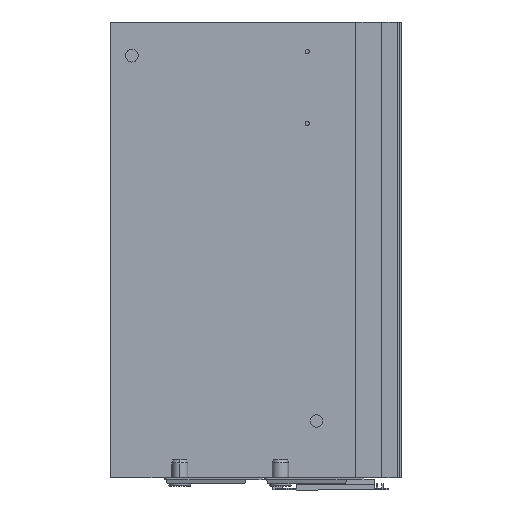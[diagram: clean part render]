
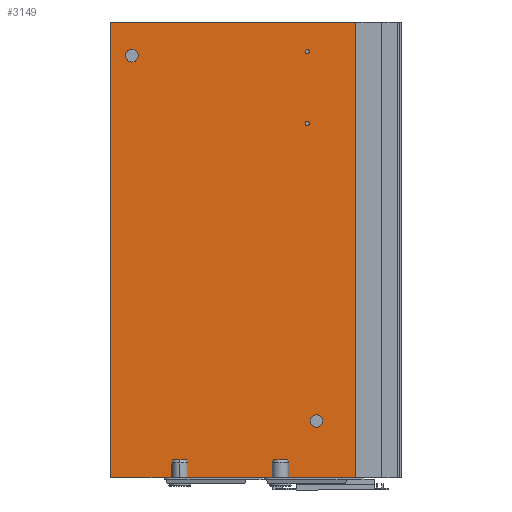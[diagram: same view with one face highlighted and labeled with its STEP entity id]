
A CAD part, left-side view. The second image highlights one B-rep face of the part: STEP entity #3149.
In plain terms, the highlighted planar face has unit normal (-1, 0, 0).
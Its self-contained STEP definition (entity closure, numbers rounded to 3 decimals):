
#44 = DIRECTION ( 'NONE',  ( 0., 0., -1. ) ) ;
#87 = AXIS2_PLACEMENT_3D ( 'NONE', #3663, #1746, #4007 ) ;
#129 = VECTOR ( 'NONE', #3074, 1000. ) ;
#180 = VERTEX_POINT ( 'NONE', #3701 ) ;
#184 = CARTESIAN_POINT ( 'NONE',  ( -10.5, 142.5, -25.5 ) ) ;
#195 = EDGE_LOOP ( 'NONE', ( #3109, #1850 ) ) ;
#211 = DIRECTION ( 'NONE',  ( 1., 0., 0. ) ) ;
#212 = CARTESIAN_POINT ( 'NONE',  ( -10.5, 58., -290. ) ) ;
#216 = FACE_BOUND ( 'NONE', #527, .T. ) ;
#233 = ORIENTED_EDGE ( 'NONE', *, *, #359, .T. ) ;
#299 = EDGE_LOOP ( 'NONE', ( #2926, #2809 ) ) ;
#308 = PLANE ( 'NONE',  #404 ) ;
#359 = EDGE_CURVE ( 'NONE', #390, #2583, #3120, .T. ) ;
#374 = EDGE_LOOP ( 'NONE', ( #3401, #233 ) ) ;
#390 = VERTEX_POINT ( 'NONE', #1865 ) ;
#404 = AXIS2_PLACEMENT_3D ( 'NONE', #4154, #629, #2865 ) ;
#416 = ORIENTED_EDGE ( 'NONE', *, *, #2328, .F. ) ;
#418 = EDGE_CURVE ( 'NONE', #3489, #2908, #1927, .T. ) ;
#432 = VERTEX_POINT ( 'NONE', #1297 ) ;
#434 = LINE ( 'NONE', #809, #1313 ) ;
#527 = EDGE_LOOP ( 'NONE', ( #3504, #2651 ) ) ;
#567 = CARTESIAN_POINT ( 'NONE',  ( -10.5, 155.9, -290. ) ) ;
#590 = ORIENTED_EDGE ( 'NONE', *, *, #899, .T. ) ;
#629 = DIRECTION ( 'NONE',  ( 1., 0., 0. ) ) ;
#677 = CIRCLE ( 'NONE', #2187, 1.339 ) ;
#730 = VERTEX_POINT ( 'NONE', #2392 ) ;
#809 = CARTESIAN_POINT ( 'NONE',  ( -10.5, 156., 0. ) ) ;
#848 = CARTESIAN_POINT ( 'NONE',  ( -10.5, 142.5, -21.5 ) ) ;
#899 = EDGE_CURVE ( 'NONE', #2231, #432, #2962, .T. ) ;
#903 = CARTESIAN_POINT ( 'NONE',  ( -10.5, 156., -290. ) ) ;
#972 = DIRECTION ( 'NONE',  ( 0., 1., 0. ) ) ;
#982 = DIRECTION ( 'NONE',  ( 1., 0., 0. ) ) ;
#1049 = AXIS2_PLACEMENT_3D ( 'NONE', #2029, #2019, #2015 ) ;
#1061 = VECTOR ( 'NONE', #3785, 1000. ) ;
#1100 = EDGE_CURVE ( 'NONE', #2908, #3489, #3707, .T. ) ;
#1167 = DIRECTION ( 'NONE',  ( 0., 1., 0. ) ) ;
#1183 = EDGE_CURVE ( 'NONE', #3445, #432, #2695, .T. ) ;
#1229 = CARTESIAN_POINT ( 'NONE',  ( -10.5, 0., 0. ) ) ;
#1248 = CARTESIAN_POINT ( 'NONE',  ( -10.5, 29.511, -18.85 ) ) ;
#1270 = CARTESIAN_POINT ( 'NONE',  ( -10.5, 30.85, -64.56 ) ) ;
#1271 = FACE_BOUND ( 'NONE', #299, .T. ) ;
#1297 = CARTESIAN_POINT ( 'NONE',  ( -10.5, 156., -290. ) ) ;
#1313 = VECTOR ( 'NONE', #3035, 1000. ) ;
#1317 = CARTESIAN_POINT ( 'NONE',  ( -10.5, 28.9, -254. ) ) ;
#1321 = EDGE_CURVE ( 'NONE', #180, #2370, #1811, .T. ) ;
#1343 = AXIS2_PLACEMENT_3D ( 'NONE', #1380, #3603, #1692 ) ;
#1378 = DIRECTION ( 'NONE',  ( 0., 1., 0. ) ) ;
#1379 = DIRECTION ( 'NONE',  ( 1., 0., 0. ) ) ;
#1380 = CARTESIAN_POINT ( 'NONE',  ( -10.5, 30.85, -18.85 ) ) ;
#1392 = VERTEX_POINT ( 'NONE', #2282 ) ;
#1400 = CARTESIAN_POINT ( 'NONE',  ( -10.5, 142.5, -21.5 ) ) ;
#1467 = CARTESIAN_POINT ( 'NONE',  ( -10.5, 155.9, -290. ) ) ;
#1491 = ORIENTED_EDGE ( 'NONE', *, *, #1183, .F. ) ;
#1527 = EDGE_CURVE ( 'NONE', #730, #3693, #4050, .T. ) ;
#1582 = DIRECTION ( 'NONE',  ( 0., 1., 0. ) ) ;
#1598 = EDGE_CURVE ( 'NONE', #3693, #730, #3413, .T. ) ;
#1609 = AXIS2_PLACEMENT_3D ( 'NONE', #848, #3072, #1167 ) ;
#1624 = FACE_BOUND ( 'NONE', #374, .T. ) ;
#1655 = CIRCLE ( 'NONE', #2203, 3.9 ) ;
#1692 = DIRECTION ( 'NONE',  ( 0., 1., 0. ) ) ;
#1727 = EDGE_CURVE ( 'NONE', #2583, #390, #1655, .T. ) ;
#1746 = DIRECTION ( 'NONE',  ( 1., 0., 0. ) ) ;
#1811 = CIRCLE ( 'NONE', #3688, 1.339 ) ;
#1815 = LINE ( 'NONE', #1229, #1061 ) ;
#1835 = ORIENTED_EDGE ( 'NONE', *, *, #2182, .F. ) ;
#1843 = CARTESIAN_POINT ( 'NONE',  ( -10.5, 29.511, -64.56 ) ) ;
#1850 = ORIENTED_EDGE ( 'NONE', *, *, #1321, .T. ) ;
#1865 = CARTESIAN_POINT ( 'NONE',  ( -10.5, 21.1, -254. ) ) ;
#1927 = CIRCLE ( 'NONE', #3631, 4. ) ;
#2015 = DIRECTION ( 'NONE',  ( 0., 1., 0. ) ) ;
#2019 = DIRECTION ( 'NONE',  ( 1., 0., 0. ) ) ;
#2029 = CARTESIAN_POINT ( 'NONE',  ( -10.5, 25., -254. ) ) ;
#2110 = CARTESIAN_POINT ( 'NONE',  ( -10.5, 156., 0. ) ) ;
#2144 = CARTESIAN_POINT ( 'NONE',  ( -10.5, 25., -254. ) ) ;
#2182 = EDGE_CURVE ( 'NONE', #2231, #2612, #434, .T. ) ;
#2187 = AXIS2_PLACEMENT_3D ( 'NONE', #1270, #3487, #1582 ) ;
#2203 = AXIS2_PLACEMENT_3D ( 'NONE', #2144, #211, #2458 ) ;
#2231 = VERTEX_POINT ( 'NONE', #2110 ) ;
#2282 = CARTESIAN_POINT ( 'NONE',  ( -10.5, 58.8, -290. ) ) ;
#2285 = VECTOR ( 'NONE', #44, 1000. ) ;
#2287 = VECTOR ( 'NONE', #2481, 1000. ) ;
#2328 = EDGE_CURVE ( 'NONE', #3555, #1392, #3994, .T. ) ;
#2370 = VERTEX_POINT ( 'NONE', #1843 ) ;
#2382 = CARTESIAN_POINT ( 'NONE',  ( -10.5, 156., 0. ) ) ;
#2384 = EDGE_CURVE ( 'NONE', #2612, #3230, #1815, .T. ) ;
#2392 = CARTESIAN_POINT ( 'NONE',  ( -10.5, 32.189, -18.85 ) ) ;
#2458 = DIRECTION ( 'NONE',  ( 0., 1., 0. ) ) ;
#2481 = DIRECTION ( 'NONE',  ( 0., 1., 0. ) ) ;
#2497 = EDGE_CURVE ( 'NONE', #1392, #3445, #3913, .T. ) ;
#2583 = VERTEX_POINT ( 'NONE', #1317 ) ;
#2603 = CARTESIAN_POINT ( 'NONE',  ( -10.5, 0., -290. ) ) ;
#2612 = VERTEX_POINT ( 'NONE', #3554 ) ;
#2651 = ORIENTED_EDGE ( 'NONE', *, *, #1527, .T. ) ;
#2695 = LINE ( 'NONE', #567, #2287 ) ;
#2719 = CARTESIAN_POINT ( 'NONE',  ( -10.5, 122., -290. ) ) ;
#2742 = CARTESIAN_POINT ( 'NONE',  ( -10.5, 142.5, -17.5 ) ) ;
#2749 = ORIENTED_EDGE ( 'NONE', *, *, #2497, .F. ) ;
#2751 = FACE_OUTER_BOUND ( 'NONE', #3183, .T. ) ;
#2803 = DIRECTION ( 'NONE',  ( 0., 1., 0. ) ) ;
#2809 = ORIENTED_EDGE ( 'NONE', *, *, #1100, .T. ) ;
#2865 = DIRECTION ( 'NONE',  ( 0., 1., 0. ) ) ;
#2870 = CARTESIAN_POINT ( 'NONE',  ( -10.5, 155.9, -290. ) ) ;
#2878 = CARTESIAN_POINT ( 'NONE',  ( -10.5, 30.85, -64.56 ) ) ;
#2901 = LINE ( 'NONE', #1467, #129 ) ;
#2908 = VERTEX_POINT ( 'NONE', #184 ) ;
#2915 = EDGE_CURVE ( 'NONE', #3230, #3555, #2901, .T. ) ;
#2926 = ORIENTED_EDGE ( 'NONE', *, *, #418, .T. ) ;
#2937 = VECTOR ( 'NONE', #972, 1000. ) ;
#2962 = LINE ( 'NONE', #2382, #2285 ) ;
#3035 = DIRECTION ( 'NONE',  ( 0., -1., 0. ) ) ;
#3072 = DIRECTION ( 'NONE',  ( 1., 0., 0. ) ) ;
#3074 = DIRECTION ( 'NONE',  ( 0., 1., 0. ) ) ;
#3109 = ORIENTED_EDGE ( 'NONE', *, *, #4131, .T. ) ;
#3120 = CIRCLE ( 'NONE', #1049, 3.9 ) ;
#3149 = ADVANCED_FACE ( 'NONE', ( #216, #3284, #1271, #2751, #1624 ), #308, .F. ) ;
#3183 = EDGE_LOOP ( 'NONE', ( #590, #1491, #2749, #416, #3656, #3211, #1835 ) ) ;
#3189 = DIRECTION ( 'NONE',  ( 0., 1., 0. ) ) ;
#3211 = ORIENTED_EDGE ( 'NONE', *, *, #2384, .F. ) ;
#3230 = VERTEX_POINT ( 'NONE', #2603 ) ;
#3284 = FACE_BOUND ( 'NONE', #195, .T. ) ;
#3401 = ORIENTED_EDGE ( 'NONE', *, *, #1727, .T. ) ;
#3413 = CIRCLE ( 'NONE', #87, 1.339 ) ;
#3445 = VERTEX_POINT ( 'NONE', #2719 ) ;
#3487 = DIRECTION ( 'NONE',  ( 1., 0., 0. ) ) ;
#3489 = VERTEX_POINT ( 'NONE', #2742 ) ;
#3504 = ORIENTED_EDGE ( 'NONE', *, *, #1598, .T. ) ;
#3554 = CARTESIAN_POINT ( 'NONE',  ( -10.5, 0., 0. ) ) ;
#3555 = VERTEX_POINT ( 'NONE', #212 ) ;
#3603 = DIRECTION ( 'NONE',  ( 1., 0., 0. ) ) ;
#3631 = AXIS2_PLACEMENT_3D ( 'NONE', #1400, #1379, #1378 ) ;
#3656 = ORIENTED_EDGE ( 'NONE', *, *, #2915, .F. ) ;
#3661 = VECTOR ( 'NONE', #2803, 1000. ) ;
#3663 = CARTESIAN_POINT ( 'NONE',  ( -10.5, 30.85, -18.85 ) ) ;
#3688 = AXIS2_PLACEMENT_3D ( 'NONE', #2878, #982, #3189 ) ;
#3693 = VERTEX_POINT ( 'NONE', #1248 ) ;
#3701 = CARTESIAN_POINT ( 'NONE',  ( -10.5, 32.189, -64.56 ) ) ;
#3707 = CIRCLE ( 'NONE', #1609, 4. ) ;
#3785 = DIRECTION ( 'NONE',  ( 0., 0., -1. ) ) ;
#3913 = LINE ( 'NONE', #2870, #2937 ) ;
#3994 = LINE ( 'NONE', #903, #3661 ) ;
#4007 = DIRECTION ( 'NONE',  ( 0., 1., 0. ) ) ;
#4050 = CIRCLE ( 'NONE', #1343, 1.339 ) ;
#4131 = EDGE_CURVE ( 'NONE', #2370, #180, #677, .T. ) ;
#4154 = CARTESIAN_POINT ( 'NONE',  ( -10.5, 156., 0. ) ) ;
